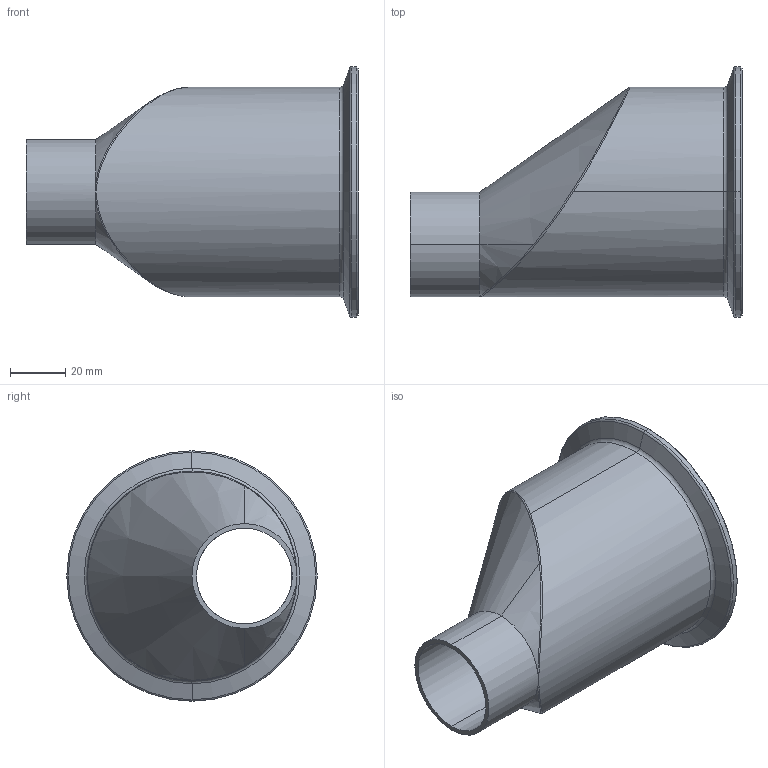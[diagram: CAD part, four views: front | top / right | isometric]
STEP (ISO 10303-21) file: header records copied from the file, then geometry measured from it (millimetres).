
FILE_DESCRIPTION (( 'STEP AP214' ), '1' );
FILE_NAME ('TE32SCW6L3.0x1.5-...STEP', '2016-06-01T10:26:16', ( 'eran' ), ( '' ), 'SwSTEP 2.0', 'SolidWorks 2016', '' );
FILE_SCHEMA (( 'AUTOMOTIVE_DESIGN' ));
Length unit declared in the file: millimetre
Products named in the file (1): TE32SCW6L3.0x1.5-..
Bounding box: 120.65 x 91 x 91 mm (x, y, z)
Volume: 168598.2 mm3; surface area: 47237.8 mm2
Topology: 1 solids, 1 shells, 53 faces, 118 edges, 64 vertices
Faces by surface type: cone 17, torus 15, cylinder 13, bspline 5, plane 3
Entity records: 2371 total; most frequent: CARTESIAN_POINT 1206, DIRECTION 254, ORIENTED_EDGE 228, EDGE_CURVE 114, AXIS2_PLACEMENT_3D 114, CIRCLE 65, VERTEX_POINT 64, EDGE_LOOP 56
